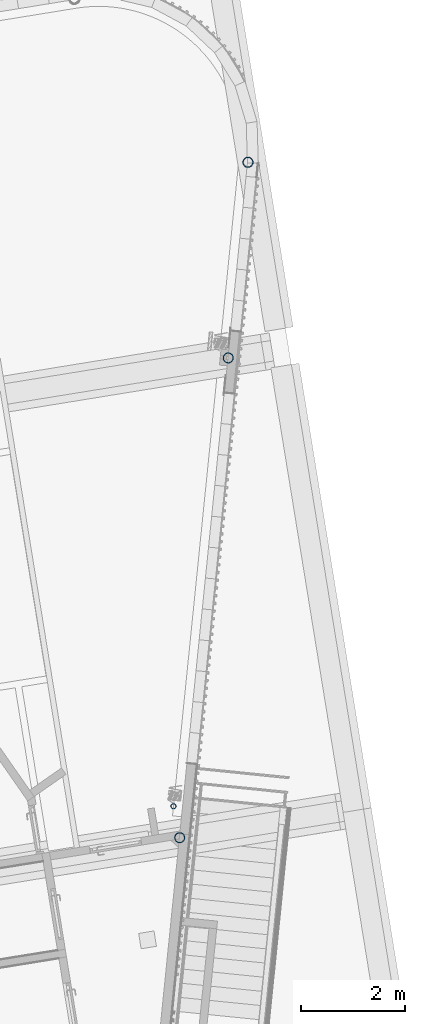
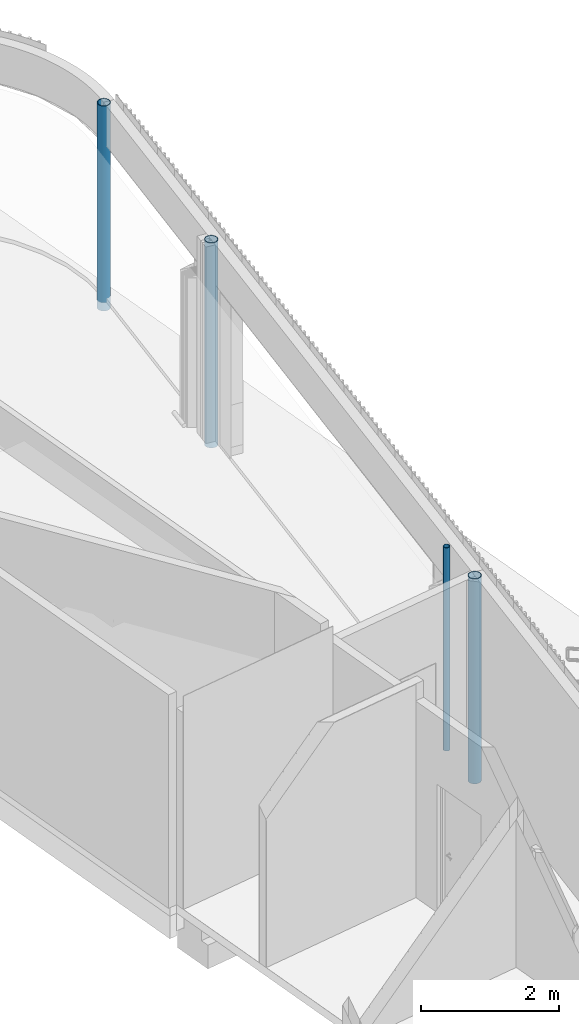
# One storey, part 1 of 23: 4 columns.
"""IFC2X3 building model written with IfcOpenShell, lengths in millimetres."""

from ifc_helpers import new_model, entity, si_unit, converted_unit, derived_unit, direction, frame, frame_2d, origin, origin_with_axes, place, context, subcontext, project, spatial, hollow_circle, extrude, source, transform, mapped, material, type_object, element, save


model = new_model("IFC2X3")

# Units and contexts
plan_context = context("Plan", 3, precision=1e-05, world=origin_with_axes())
model_context = context("Model", 3, precision=0.01, world=origin(), true_north=direction((6.12323399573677e-17, 1.0)))
body_context = subcontext(model_context, "Body", "Model", "MODEL_VIEW")
ifc_project = project(units=[converted_unit("PLANEANGLEUNIT", "DEGREE", entity("IfcPositiveLengthMeasure", 0.0174532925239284), si_unit("PLANEANGLEUNIT", "RADIAN"), dimensions=[0, 0, 0, 0, 0, 0, 0]), si_unit("AREAUNIT", "SQUARE_METRE"), si_unit("LENGTHUNIT", "METRE", prefix="MILLI"), si_unit("MASSUNIT", "GRAM", prefix="KILO"), si_unit("POWERUNIT", "WATT"), si_unit("PRESSUREUNIT", "PASCAL", prefix="KILO"), si_unit("FORCEUNIT", "NEWTON", prefix="KILO"), si_unit("ELECTRICVOLTAGEUNIT", "VOLT"), si_unit("ELECTRICCURRENTUNIT", "AMPERE"), si_unit("THERMODYNAMICTEMPERATUREUNIT", "DEGREE_CELSIUS"), si_unit("TIMEUNIT", "SECOND"), si_unit("VOLUMEUNIT", "CUBIC_METRE"), derived_unit("LINEARVELOCITYUNIT", [(si_unit("LENGTHUNIT", "METRE"), 1), (si_unit("TIMEUNIT", "SECOND"), -1)]), derived_unit("VOLUMETRICFLOWRATEUNIT", [(si_unit("VOLUMEUNIT", "CUBIC_METRE"), 1), (si_unit("TIMEUNIT", "SECOND"), -1)]), derived_unit("THERMALTRANSMITTANCEUNIT", [(si_unit("POWERUNIT", "WATT"), 1), (si_unit("THERMODYNAMICTEMPERATUREUNIT", "KELVIN"), -1), (si_unit("AREAUNIT", "SQUARE_METRE"), -1)]), derived_unit("SOUNDPRESSUREUNIT", [(si_unit("PRESSUREUNIT", "PASCAL"), 1)])], contexts=[model_context, plan_context])

# Site, building, storey
site_placement = place(None, frame((-0.00071070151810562, 0.00438415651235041, 0.0), z_axis=(0.0, 0.0, 1.0), x_axis=(-0.160236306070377, 0.987078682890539, 0.0)))
site = spatial("IfcSite", under=ifc_project, at=site_placement, Name="Default", CompositionType="ELEMENT")
building_placement = place(site_placement, origin_with_axes())
building = spatial("IfcBuilding", under=site, at=building_placement, Name="TOO", CompositionType="ELEMENT")
storey_placement = place(building_placement, frame((0.0, 0.0, 58999.9999999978), z_axis=(0.0, 0.0, 1.0), x_axis=(1.0, 0.0, 0.0)))
storey = spatial("IfcBuildingStorey", under=building, at=storey_placement, Name="Nivå F", CompositionType="ELEMENT", Elevation=58999.9999999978)

# Columns
ifc_material = material(Name="<Unnamed>")
column_type_1 = type_object("IfcColumnType", Name="A222 - Sirkulær Stålsøyle:A222 - Sirkulær Stålsøyle 1 - Ø 200 mm", PredefinedType="COLUMN", material=ifc_material)
shared_shape_1 = source(origin(), body_context, "Body", "SweptSolid", [
    extrude(hollow_circle(Radius=99.9999999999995, WallThickness=9.99999999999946, at=frame_2d((-5.27018739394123e-15, 4.50048420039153e-13), x_axis=(1.0, 0.0))), frame((0.0, 0.0, 58779.9999999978)), (0.0, 0.0, 1.0), 3630.00000000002),
])
for number, where, z_axis, x_axis in (
    (1, (783547.044413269, -509902.480498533, -58999.9999999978), (0.0, 0.0, 1.0), (-1.0, 0.0, 0.0)),
    (2, (779877.615584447, -508919.524018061, -58999.9999999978), (0.0, 0.0, 1.0), (-1.0, 0.0, 0.0)),
):
    element("IfcColumn", number, at=place(storey_placement, frame(where, z_axis=z_axis, x_axis=x_axis)), inside=storey, type_object=column_type_1, material=ifc_material, Name="A222 - Sirkulær Stålsøyle:A222 - Sirkulær Stålsøyle 1 - Ø 200 mm", ObjectType="A222 - Sirkulær Stålsøyle:A222 - Sirkulær Stålsøyle 1 - Ø 200 mm", context=body_context, shape_type="MappedRepresentation", body=[
        mapped(shared_shape_1, transform((0.0, 0.0, 0.0), scale=1.0)),
    ])
column_type_2 = type_object("IfcColumnType", Name="A222 - Sirkulær Stålsøyle:A222 - Sirkulær Stålsøyle 1 - Ø 200 mm", PredefinedType="COLUMN", material=ifc_material)
column_1_placement = place(storey_placement, frame((770877.087861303, -506507.575872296, -58999.9999999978), z_axis=(0.0, 0.0, 1.0), x_axis=(1.0, 0.0, 0.0)))
element("IfcColumn", 3, at=column_1_placement, inside=storey, type_object=column_type_2, material=ifc_material, Name="A222 - Sirkulær Stålsøyle:A222 - Sirkulær Stålsøyle 1 - Ø 200 mm", ObjectType="A222 - Sirkulær Stålsøyle:A222 - Sirkulær Stålsøyle 1 - Ø 200 mm", context=body_context, shape_type="MappedRepresentation", body=[
    mapped(shared_shape_1, transform((0.0, 0.0, 0.0), scale=1.0)),
])
column_type_3 = type_object("IfcColumnType", Name="A222 - Sirkulær Stålsøyle:A222 - Sirkulær Stålsøyle - Ø 101,6 x 6", PredefinedType="COLUMN", material=ifc_material)
shared_shape_2 = source(origin(), body_context, "Body", "SweptSolid", [
    extrude(hollow_circle(Radius=50.7999999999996, WallThickness=5.99999999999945, at=frame_2d((3.18971205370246e-15, 2.2854389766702e-13), x_axis=(1.0, 0.0))), frame((0.0, 0.0, 58999.9999999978)), (0.0, 0.0, 1.0), 3600.00000000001),
])
column_2_placement = place(storey_placement, frame((771495.747232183, -506486.662857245, -58999.9999999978), z_axis=(0.0, 0.0, 1.0), x_axis=(0.965926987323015, -0.258814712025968, 0.0)))
element("IfcColumn", 4, at=column_2_placement, inside=storey, type_object=column_type_3, material=ifc_material, Name="A222 - Sirkulær Stålsøyle:A222 - Sirkulær Stålsøyle - Ø 101,6 x 6", ObjectType="A222 - Sirkulær Stålsøyle:A222 - Sirkulær Stålsøyle - Ø 101,6 x 6", context=body_context, shape_type="MappedRepresentation", body=[
    mapped(shared_shape_2, transform((0.0, 0.0, 0.0), scale=1.0)),
])

save(model, "model.ifc")
